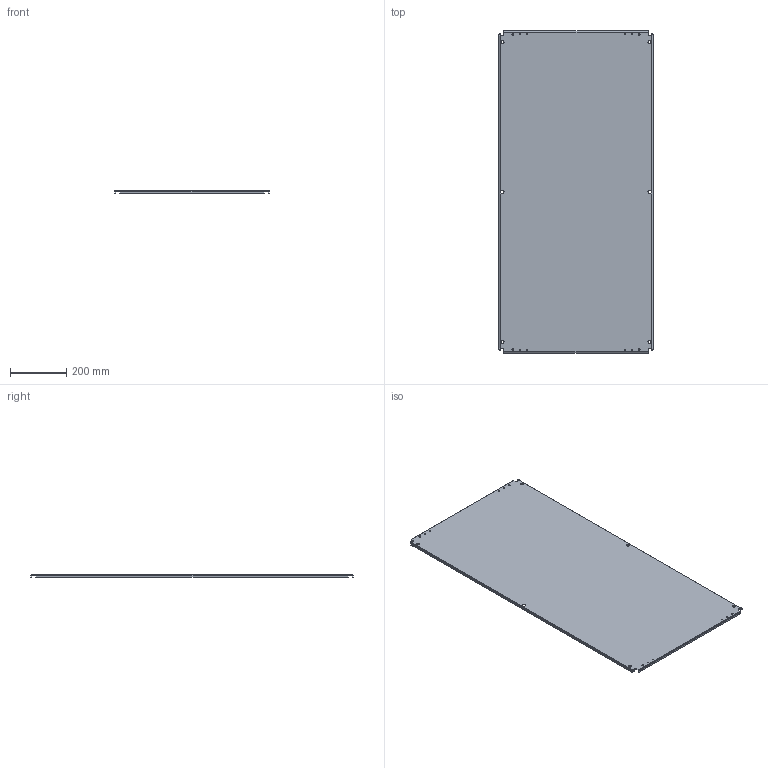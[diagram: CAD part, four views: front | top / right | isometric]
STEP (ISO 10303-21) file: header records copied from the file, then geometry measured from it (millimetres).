
FILE_DESCRIPTION (( 'STEP AP203' ), '1' );
FILE_NAME ('ECPA060120.STEP', '2020-04-09T08:08:05', ( '' ), ( '' ), 'SwSTEP 2.0', 'SolidWorks 2019', '' );
FILE_SCHEMA (( 'CONFIG_CONTROL_DESIGN' ));
Length unit declared in the file: millimetre
Products named in the file (1): ECPA060120
Bounding box: 550 x 1150 x 9.8 mm (x, y, z)
Volume: 1496747.4 mm3; surface area: 1310499.9 mm2
Topology: 1 solids, 1 shells, 102 faces, 272 edges, 172 vertices
Faces by surface type: cylinder 52, plane 50
Entity records: 3329 total; most frequent: DIRECTION 586, CARTESIAN_POINT 547, ORIENTED_EDGE 544, EDGE_CURVE 272, AXIS2_PLACEMENT_3D 211, VERTEX_POINT 172, LINE 164, VECTOR 164
